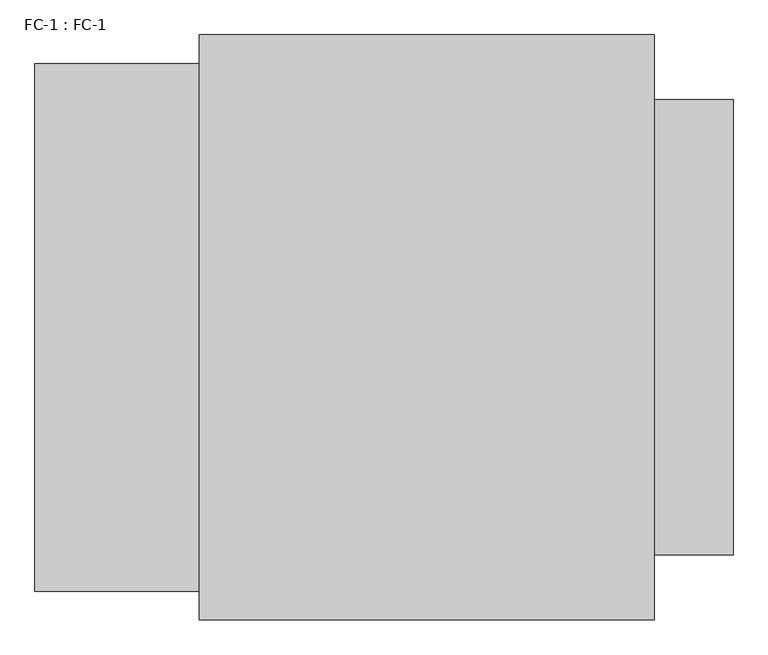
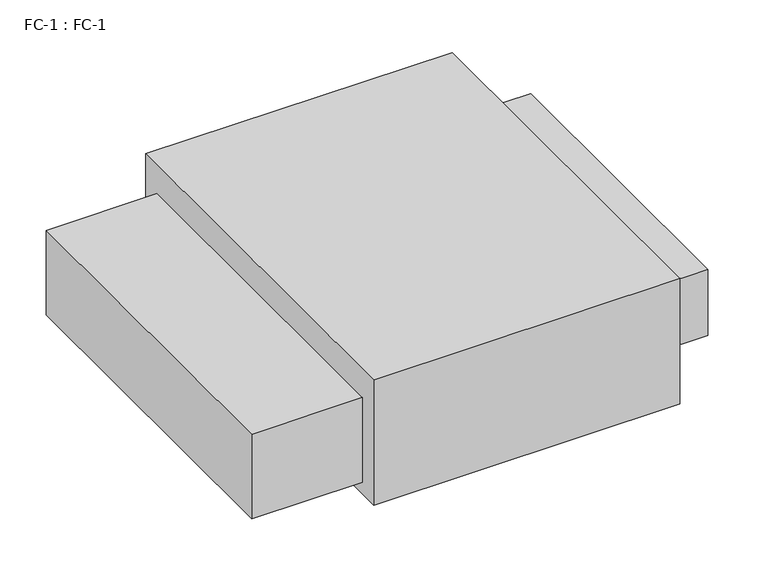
"""IFC4 building model written with IfcOpenShell, lengths in millimetres: proxy geometry, FC-1 : FC-1."""

from ifc_helpers import new_model, si_unit, frame, origin, origin_with_axes, place, context, project, spatial, polyline, outline, extrude, source, transform, mapped, element, save


def fc_1_fc_1_6bba20b3(model_context):
    return source(origin(), model_context, "Body", "SweptSolid", [
        extrude(outline(polyline([(1230.3125, 914.4), (1230.3125, -914.4), (912.8125, -914.4), (912.8125, 914.4), (1230.3125, 914.4)])), frame((0.0, 0.0, 163.5125), z_axis=(0.0, 0.0, 1.0), x_axis=(1.0, 0.0, 0.0)), (0.0, 0.0, 1.0), 414.3375),
        extrude(outline(polyline([(-912.8125, 1059.65625), (-912.8125, -1061.24375), (-1573.4113984, -1061.24375), (-1573.4113984, 1059.65625), (-912.8125, 1059.65625)])), frame((0.0, 0.0, 76.2), z_axis=(0.0, 0.0, 1.0), x_axis=(1.0, 0.0, 0.0)), (0.0, 0.0, 1.0), 533.4),
        extrude(outline(polyline([(-912.8125, 1175.54375), (912.8125, 1175.54375), (912.8125, -1175.54375), (-912.8125, -1175.54375), (-912.8125, 1175.54375)])), origin_with_axes(), (0.0, 0.0, 1.0), 790.575),
    ])


if __name__ == "__main__":
    model = new_model("IFC4")
    model_context = context("Model", 3, world=origin())
    ifc_project = project(units=[si_unit("LENGTHUNIT", "METRE", prefix="MILLI")], contexts=[model_context])
    site = spatial("IfcSite", under=ifc_project)
    building = spatial("IfcBuilding", under=site)
    placement = place(None, origin())
    fc_1_fc_1_shape = fc_1_fc_1_6bba20b3(model_context)
    element("IfcBuildingElementProxy", 1, Name="FC-1 : FC-1", ObjectType="FC-1 : FC-1", at=placement, inside=building, context=model_context, shape_type="MappedRepresentation", body=[
        mapped(fc_1_fc_1_shape, transform((0.0, 0.0, 0.0), x_axis=(1.0, 0.0, 0.0), y_axis=(0.0, 1.0, 0.0), z_axis=(0.0, 0.0, 1.0))),
    ])
    save(model, "model.ifc")
